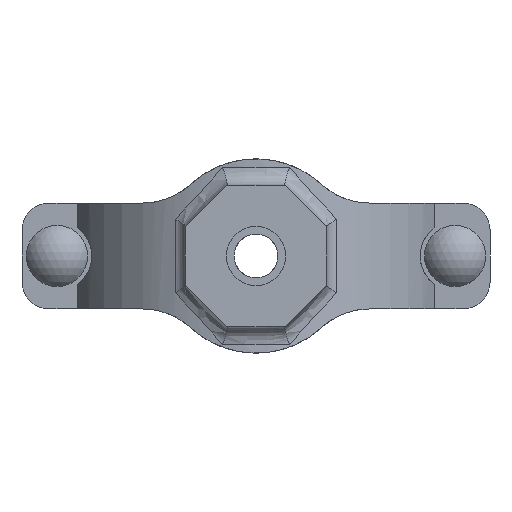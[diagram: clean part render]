
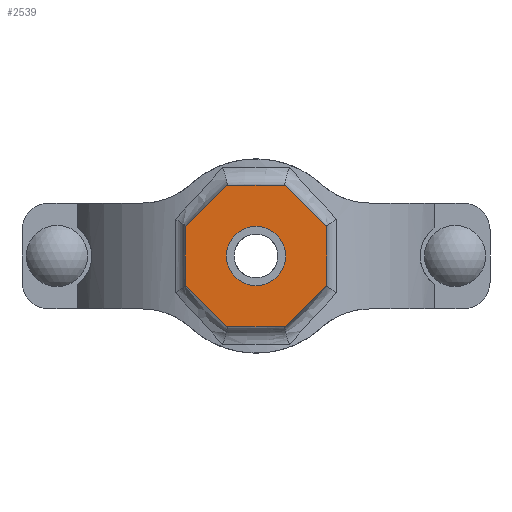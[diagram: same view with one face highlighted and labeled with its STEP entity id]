
A CAD part, front view. The second image highlights one B-rep face of the part: STEP entity #2539.
In plain terms, the highlighted planar face has unit normal (0, -1, 0) as drawn and (0, 1, 0) by its records, which use the part's own axes.
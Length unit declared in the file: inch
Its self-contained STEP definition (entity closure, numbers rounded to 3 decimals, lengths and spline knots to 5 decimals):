
#186=FACE_BOUND('',#459,.T.);
#307=FACE_OUTER_BOUND('',#458,.T.);
#458=EDGE_LOOP('',(#2138,#2139,#2140,#2141,#2142,#2143,#2144,#2145));
#459=EDGE_LOOP('',(#2146));
#594=LINE('',#4773,#780);
#597=LINE('',#4778,#783);
#599=LINE('',#4782,#785);
#601=LINE('',#4786,#787);
#641=LINE('',#5163,#827);
#643=LINE('',#5167,#829);
#645=LINE('',#5171,#831);
#647=LINE('',#5174,#833);
#780=VECTOR('',#3278,0.3937);
#783=VECTOR('',#3283,0.3937);
#785=VECTOR('',#3287,0.3937);
#787=VECTOR('',#3291,0.3937);
#827=VECTOR('',#3427,0.3937);
#829=VECTOR('',#3431,0.3937);
#831=VECTOR('',#3435,0.3937);
#833=VECTOR('',#3439,0.3937);
#919=CIRCLE('',#2802,0.42);
#1097=VERTEX_POINT('',#4770);
#1098=VERTEX_POINT('',#4772);
#1099=VERTEX_POINT('',#4776);
#1100=VERTEX_POINT('',#4780);
#1101=VERTEX_POINT('',#4784);
#1136=VERTEX_POINT('',#5016);
#1160=VERTEX_POINT('',#5162);
#1161=VERTEX_POINT('',#5166);
#1162=VERTEX_POINT('',#5170);
#1408=EDGE_CURVE('',#1098,#1097,#594,.T.);
#1411=EDGE_CURVE('',#1097,#1099,#597,.T.);
#1413=EDGE_CURVE('',#1099,#1100,#599,.T.);
#1415=EDGE_CURVE('',#1100,#1101,#601,.T.);
#1461=EDGE_CURVE('',#1136,#1136,#919,.T.);
#1495=EDGE_CURVE('',#1160,#1098,#641,.T.);
#1497=EDGE_CURVE('',#1161,#1160,#643,.T.);
#1499=EDGE_CURVE('',#1162,#1161,#645,.T.);
#1501=EDGE_CURVE('',#1101,#1162,#647,.T.);
#2138=ORIENTED_EDGE('',*,*,#1501,.T.);
#2139=ORIENTED_EDGE('',*,*,#1499,.T.);
#2140=ORIENTED_EDGE('',*,*,#1497,.T.);
#2141=ORIENTED_EDGE('',*,*,#1495,.T.);
#2142=ORIENTED_EDGE('',*,*,#1408,.T.);
#2143=ORIENTED_EDGE('',*,*,#1411,.T.);
#2144=ORIENTED_EDGE('',*,*,#1413,.T.);
#2145=ORIENTED_EDGE('',*,*,#1415,.T.);
#2146=ORIENTED_EDGE('',*,*,#1461,.T.);
#2280=PLANE('',#2825);
#2539=ADVANCED_FACE('',(#307,#186),#2280,.T.);
#2802=AXIS2_PLACEMENT_3D('',#5017,#3369,#3370);
#2825=AXIS2_PLACEMENT_3D('',#5175,#3440,#3441);
#3278=DIRECTION('',(0.,0.,1.));
#3283=DIRECTION('',(0.707,0.,0.707));
#3287=DIRECTION('',(1.,0.,0.));
#3291=DIRECTION('',(0.707,0.,-0.707));
#3369=DIRECTION('center_axis',(0.,-1.,0.));
#3370=DIRECTION('ref_axis',(-1.,0.,0.));
#3427=DIRECTION('',(-0.707,0.,0.707));
#3431=DIRECTION('',(-1.,0.,0.));
#3435=DIRECTION('',(-0.707,0.,-0.707));
#3439=DIRECTION('',(0.,0.,-1.));
#3440=DIRECTION('center_axis',(0.,1.,0.));
#3441=DIRECTION('ref_axis',(0.,0.,1.));
#4770=CARTESIAN_POINT('',(-1.,3.56,0.41421));
#4772=CARTESIAN_POINT('',(-1.,3.56,-0.41421));
#4773=CARTESIAN_POINT('',(-1.,3.56,0.41421));
#4776=CARTESIAN_POINT('',(-0.41421,3.56,1.));
#4778=CARTESIAN_POINT('',(-0.41421,3.56,1.));
#4780=CARTESIAN_POINT('',(0.41421,3.56,1.));
#4782=CARTESIAN_POINT('',(0.41421,3.56,1.));
#4784=CARTESIAN_POINT('',(1.,3.56,0.41421));
#4786=CARTESIAN_POINT('',(1.,3.56,0.41421));
#5016=CARTESIAN_POINT('',(0.42,3.56,0.));
#5017=CARTESIAN_POINT('Origin',(0.,3.56,0.));
#5162=CARTESIAN_POINT('',(-0.41421,3.56,-1.));
#5163=CARTESIAN_POINT('',(-1.,3.56,-0.41421));
#5166=CARTESIAN_POINT('',(0.41421,3.56,-1.));
#5167=CARTESIAN_POINT('',(-0.41421,3.56,-1.));
#5170=CARTESIAN_POINT('',(1.,3.56,-0.41421));
#5171=CARTESIAN_POINT('',(0.41421,3.56,-1.));
#5174=CARTESIAN_POINT('',(1.,3.56,-0.41421));
#5175=CARTESIAN_POINT('Origin',(0.,3.56,0.));
